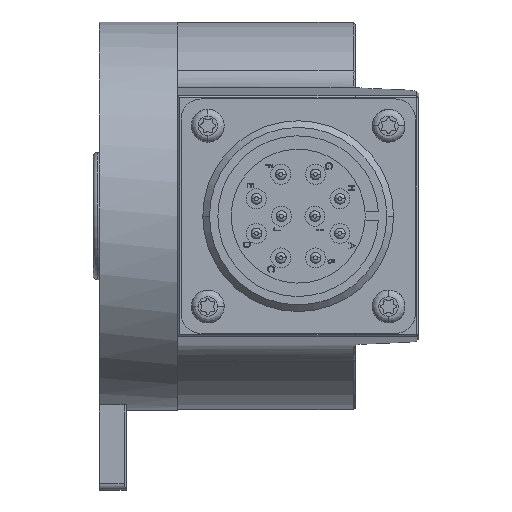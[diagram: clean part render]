
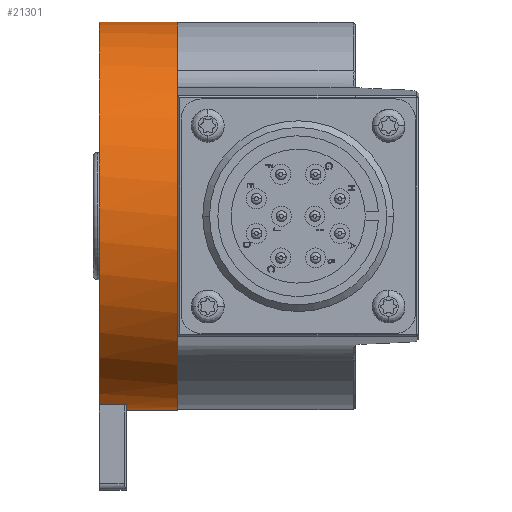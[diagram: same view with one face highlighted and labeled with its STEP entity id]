
A CAD part, front view. The second image highlights one B-rep face of the part: STEP entity #21301.
In plain terms, the highlighted cylindrical face has radius 29 mm (diameter 58 mm), a partial arc.
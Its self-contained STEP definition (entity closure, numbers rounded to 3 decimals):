
#95 = DIRECTION ( 'NONE',  ( 1., 0., 0. ) ) ;
#240 = ORIENTED_EDGE ( 'NONE', *, *, #20240, .F. ) ;
#260 = CARTESIAN_POINT ( 'NONE',  ( -3.622, 25.423, 0. ) ) ;
#672 = CARTESIAN_POINT ( 'NONE',  ( 0.378, 25.423, 0. ) ) ;
#756 = CARTESIAN_POINT ( 'NONE',  ( 0.378, 25.423, -29. ) ) ;
#1112 = ORIENTED_EDGE ( 'NONE', *, *, #11892, .T. ) ;
#1181 = ORIENTED_EDGE ( 'NONE', *, *, #13576, .F. ) ;
#1287 = VERTEX_POINT ( 'NONE', #8890 ) ;
#1601 = AXIS2_PLACEMENT_3D ( 'NONE', #9281, #5908, #21884 ) ;
#1992 = VERTEX_POINT ( 'NONE', #756 ) ;
#2087 = CARTESIAN_POINT ( 'NONE',  ( 8.068, 25.423, -29. ) ) ;
#2150 = EDGE_CURVE ( 'NONE', #21787, #17206, #18368, .T. ) ;
#2204 = DIRECTION ( 'NONE',  ( 0., 0., 1. ) ) ;
#3532 = EDGE_CURVE ( 'NONE', #1287, #1992, #15481, .T. ) ;
#3712 = ORIENTED_EDGE ( 'NONE', *, *, #3532, .T. ) ;
#3894 = DIRECTION ( 'NONE',  ( 0., 0., -1. ) ) ;
#3981 = DIRECTION ( 'NONE',  ( 1., 0., 0. ) ) ;
#4149 = LINE ( 'NONE', #20145, #6621 ) ;
#4163 = CIRCLE ( 'NONE', #7919, 29. ) ;
#5664 = DIRECTION ( 'NONE',  ( 1., 0., 0. ) ) ;
#5741 = CARTESIAN_POINT ( 'NONE',  ( 8.068, 25.423, 0. ) ) ;
#5908 = DIRECTION ( 'NONE',  ( 1., 0., 0. ) ) ;
#6088 = DIRECTION ( 'NONE',  ( 1., 0., 0. ) ) ;
#6621 = VECTOR ( 'NONE', #11404, 1000. ) ;
#7919 = AXIS2_PLACEMENT_3D ( 'NONE', #260, #5664, #3894 ) ;
#8000 = ORIENTED_EDGE ( 'NONE', *, *, #18649, .T. ) ;
#8746 = AXIS2_PLACEMENT_3D ( 'NONE', #5741, #95, #12636 ) ;
#8814 = VECTOR ( 'NONE', #3981, 1000. ) ;
#8890 = CARTESIAN_POINT ( 'NONE',  ( 0.378, 18.423, -28.142 ) ) ;
#9281 = CARTESIAN_POINT ( 'NONE',  ( 8.068, 25.423, 0. ) ) ;
#11404 = DIRECTION ( 'NONE',  ( -1., 0., 0. ) ) ;
#11892 = EDGE_CURVE ( 'NONE', #1992, #17206, #21703, .T. ) ;
#12636 = DIRECTION ( 'NONE',  ( 0., 0., -1. ) ) ;
#13576 = EDGE_CURVE ( 'NONE', #1287, #20396, #4149, .T. ) ;
#13840 = CARTESIAN_POINT ( 'NONE',  ( 8.068, 25.423, 29. ) ) ;
#14331 = CARTESIAN_POINT ( 'NONE',  ( 8.068, 25.423, -29. ) ) ;
#14636 = LINE ( 'NONE', #14748, #8814 ) ;
#14748 = CARTESIAN_POINT ( 'NONE',  ( 8.068, 25.423, 29. ) ) ;
#15481 = CIRCLE ( 'NONE', #19561, 29. ) ;
#16011 = EDGE_LOOP ( 'NONE', ( #240, #8000, #1181, #3712, #1112, #16385 ) ) ;
#16021 = CYLINDRICAL_SURFACE ( 'NONE', #8746, 29. ) ;
#16385 = ORIENTED_EDGE ( 'NONE', *, *, #2150, .F. ) ;
#17206 = VERTEX_POINT ( 'NONE', #14331 ) ;
#17852 = CARTESIAN_POINT ( 'NONE',  ( -3.622, 18.423, -28.142 ) ) ;
#18116 = VECTOR ( 'NONE', #18324, 1000. ) ;
#18324 = DIRECTION ( 'NONE',  ( 1., 0., 0. ) ) ;
#18368 = CIRCLE ( 'NONE', #1601, 29. ) ;
#18649 = EDGE_CURVE ( 'NONE', #21928, #20396, #4163, .T. ) ;
#18862 = CARTESIAN_POINT ( 'NONE',  ( -3.622, 25.423, 29. ) ) ;
#19561 = AXIS2_PLACEMENT_3D ( 'NONE', #672, #6088, #2204 ) ;
#19974 = FACE_OUTER_BOUND ( 'NONE', #16011, .T. ) ;
#20145 = CARTESIAN_POINT ( 'NONE',  ( 8.068, 18.423, -28.142 ) ) ;
#20240 = EDGE_CURVE ( 'NONE', #21928, #21787, #14636, .T. ) ;
#20396 = VERTEX_POINT ( 'NONE', #17852 ) ;
#21301 = ADVANCED_FACE ( 'NONE', ( #19974 ), #16021, .T. ) ;
#21703 = LINE ( 'NONE', #2087, #18116 ) ;
#21787 = VERTEX_POINT ( 'NONE', #13840 ) ;
#21884 = DIRECTION ( 'NONE',  ( 0., 0., -1. ) ) ;
#21928 = VERTEX_POINT ( 'NONE', #18862 ) ;
